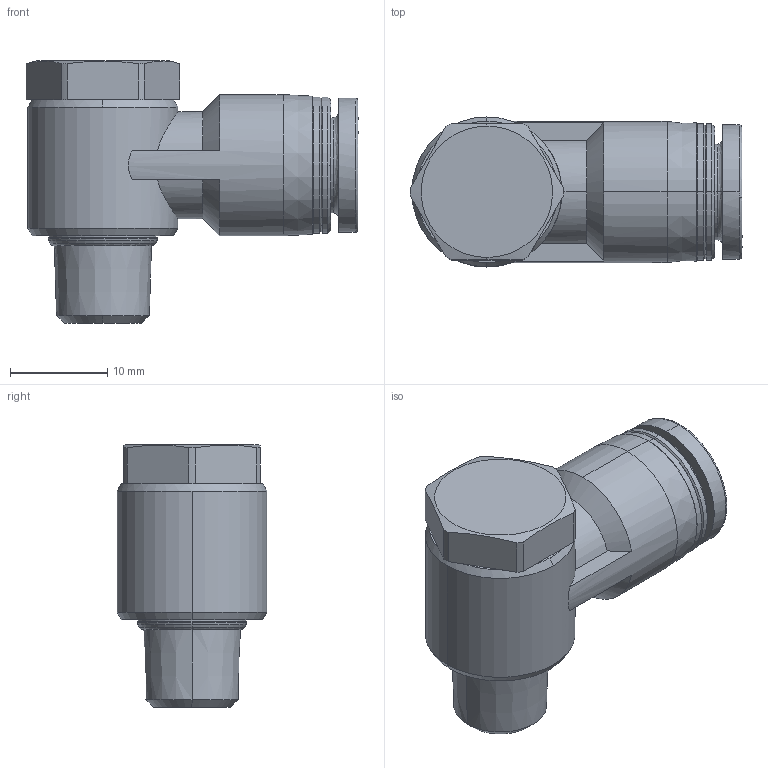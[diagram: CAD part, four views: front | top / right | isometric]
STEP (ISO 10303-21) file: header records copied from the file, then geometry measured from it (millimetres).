
FILE_DESCRIPTION (( 'STEP AP214' ), '1' );
FILE_NAME ('APH8-01.STEP', '2019-12-05T03:46:22', ( '微软用户' ), ( '微软中国' ), 'SwSTEP 2.0', 'SolidWorks 2016', '' );
FILE_SCHEMA (( 'AUTOMOTIVE_DESIGN' ));
Length unit declared in the file: millimetre
Products named in the file (1): APH8-01
Bounding box: 34.1 x 15.4 x 27 mm (x, y, z)
Volume: 5832.9 mm3; surface area: 3017.1 mm2
Topology: 1 solids, 1 shells, 94 faces, 220 edges, 135 vertices
Faces by surface type: plane 32, cylinder 28, cone 26, bspline 8
Entity records: 3089 total; most frequent: CARTESIAN_POINT 900, DIRECTION 479, ORIENTED_EDGE 440, EDGE_CURVE 220, AXIS2_PLACEMENT_3D 198, VERTEX_POINT 135, CIRCLE 111, EDGE_LOOP 101
